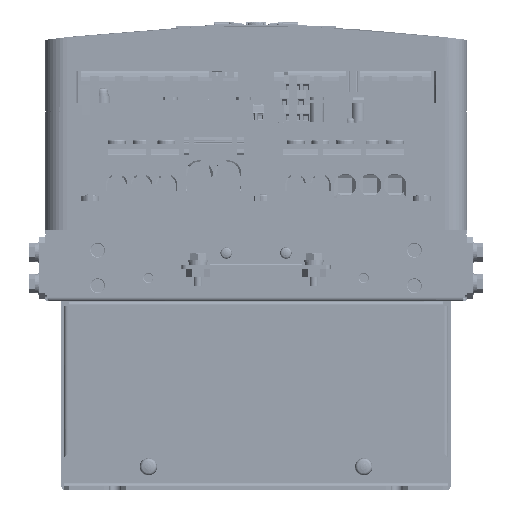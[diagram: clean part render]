
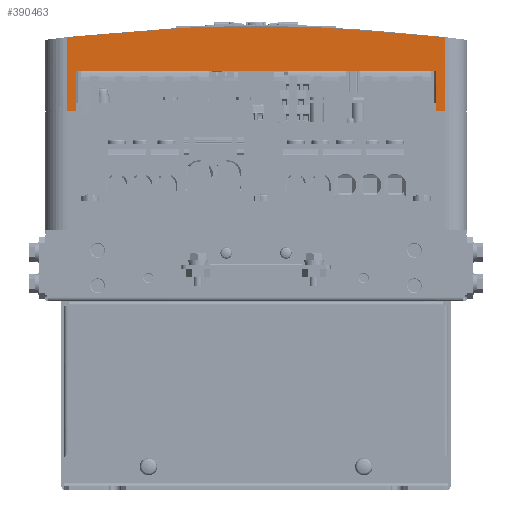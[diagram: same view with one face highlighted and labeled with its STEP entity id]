
A CAD part, front view. The second image highlights one B-rep face of the part: STEP entity #390463.
In plain terms, the highlighted planar face has unit normal (0, -1, 0).
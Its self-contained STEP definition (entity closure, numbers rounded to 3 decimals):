
#375481=DIRECTION('',(1.,0.,0.));
#375482=VECTOR('',#375481,5.4);
#375483=CARTESIAN_POINT('',(236.1,21.,244.5));
#375484=LINE('',#375483,#375482);
#375651=DIRECTION('',(0.,0.,1.));
#375652=VECTOR('',#375651,44.847);
#375653=CARTESIAN_POINT('',(241.5,21.,244.5));
#375654=LINE('',#375653,#375652);
#375659=DIRECTION('',(-1.,0.,0.));
#375660=VECTOR('',#375659,5.4);
#375661=CARTESIAN_POINT('',(18.9,21.,244.5));
#375662=LINE('',#375661,#375660);
#375663=CARTESIAN_POINT('',(127.5,21.,-684.));
#375664=DIRECTION('',(0.,1.,0.));
#375665=DIRECTION('',(-0.116,0.,0.993));
#375666=AXIS2_PLACEMENT_3D('',#375663,#375664,#375665);
#375668=DIRECTION('',(0.,0.,-1.));
#375669=VECTOR('',#375668,24.5);
#375670=CARTESIAN_POINT('',(18.9,21.,269.));
#375671=LINE('',#375670,#375669);
#375676=DIRECTION('',(0.,0.,-1.));
#375677=VECTOR('',#375676,44.847);
#375678=CARTESIAN_POINT('',(13.5,21.,289.347));
#375679=LINE('',#375678,#375677);
#380959=DIRECTION('',(0.,0.,-1.));
#380960=VECTOR('',#380959,24.5);
#380961=CARTESIAN_POINT('',(236.1,21.,269.));
#380962=LINE('',#380961,#380960);
#380963=DIRECTION('',(1.,0.,0.));
#380964=VECTOR('',#380963,217.2);
#380965=CARTESIAN_POINT('',(18.9,21.,269.));
#380966=LINE('',#380965,#380964);
#386559=CARTESIAN_POINT('',(13.5,21.,244.5));
#386560=VERTEX_POINT('',#386559);
#386561=CARTESIAN_POINT('',(18.9,21.,244.5));
#386562=VERTEX_POINT('',#386561);
#386583=CARTESIAN_POINT('',(236.1,21.,244.5));
#386584=VERTEX_POINT('',#386583);
#386585=CARTESIAN_POINT('',(241.5,21.,244.5));
#386586=VERTEX_POINT('',#386585);
#386775=CARTESIAN_POINT('',(241.5,21.,289.347));
#386776=VERTEX_POINT('',#386775);
#386777=CARTESIAN_POINT('',(13.5,21.,289.347));
#386778=VERTEX_POINT('',#386777);
#386779=CARTESIAN_POINT('',(236.1,21.,269.));
#386780=VERTEX_POINT('',#386779);
#386781=CARTESIAN_POINT('',(18.9,21.,269.));
#386782=VERTEX_POINT('',#386781);
#390443=CARTESIAN_POINT('',(0.,21.,296.));
#390444=DIRECTION('',(0.,-1.,0.));
#390445=DIRECTION('',(1.,0.,0.));
#390446=AXIS2_PLACEMENT_3D('',#390443,#390444,#390445);
#390447=PLANE('',#390446);
#390448=ORIENTED_EDGE('',*,*,#390111,.T.);
#390450=ORIENTED_EDGE('',*,*,#390449,.F.);
#390452=ORIENTED_EDGE('',*,*,#390451,.T.);
#390453=ORIENTED_EDGE('',*,*,#390435,.F.);
#390454=ORIENTED_EDGE('',*,*,#390141,.F.);
#390456=ORIENTED_EDGE('',*,*,#390455,.F.);
#390458=ORIENTED_EDGE('',*,*,#390457,.F.);
#390460=ORIENTED_EDGE('',*,*,#390459,.T.);
#390461=EDGE_LOOP('',(#390448,#390450,#390452,#390453,#390454,#390456,#390458,
#390460));
#390462=FACE_OUTER_BOUND('',#390461,.F.);
#375667=CIRCLE('',#375666,980.);
#390111=EDGE_CURVE('',#386562,#386560,#375662,.T.);
#390141=EDGE_CURVE('',#386584,#386586,#375484,.T.);
#390435=EDGE_CURVE('',#386586,#386776,#375654,.T.);
#390449=EDGE_CURVE('',#386778,#386560,#375679,.T.);
#390451=EDGE_CURVE('',#386778,#386776,#375667,.T.);
#390455=EDGE_CURVE('',#386780,#386584,#380962,.T.);
#390457=EDGE_CURVE('',#386782,#386780,#380966,.T.);
#390459=EDGE_CURVE('',#386782,#386562,#375671,.T.);
#390463=ADVANCED_FACE('',(#390462),#390447,.T.);
